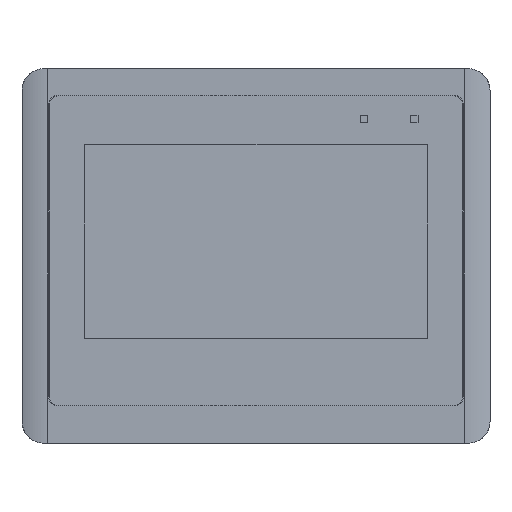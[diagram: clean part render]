
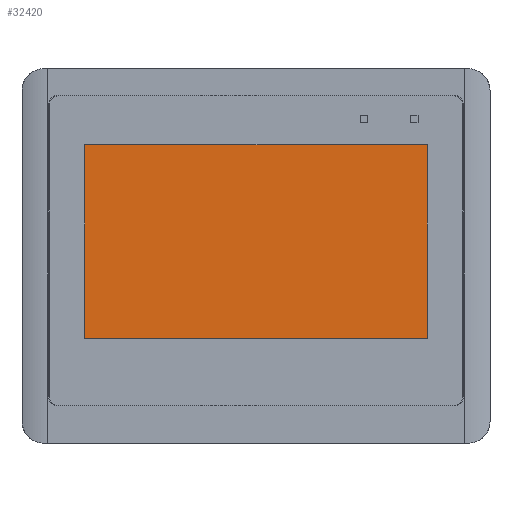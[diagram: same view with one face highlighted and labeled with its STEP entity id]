
A CAD part, top view. The second image highlights one B-rep face of the part: STEP entity #32420.
In plain terms, the highlighted planar face has unit normal (0, 0, 1).
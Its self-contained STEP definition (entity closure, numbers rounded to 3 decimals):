
#31876=DIRECTION('',(-1.,0.,0.));
#31877=VECTOR('',#31876,95.04);
#31878=CARTESIAN_POINT('',(47.52,-26.93,4.18));
#31879=LINE('',#31878,#31877);
#31880=DIRECTION('',(0.,1.,0.));
#31881=VECTOR('',#31880,53.86);
#31882=CARTESIAN_POINT('',(-47.52,-26.93,4.18));
#31883=LINE('',#31882,#31881);
#31884=DIRECTION('',(1.,0.,0.));
#31885=VECTOR('',#31884,95.04);
#31886=CARTESIAN_POINT('',(-47.52,26.93,4.18));
#31887=LINE('',#31886,#31885);
#31888=DIRECTION('',(0.,-1.,0.));
#31889=VECTOR('',#31888,53.86);
#31890=CARTESIAN_POINT('',(47.52,26.93,4.18));
#31891=LINE('',#31890,#31889);
#32044=CARTESIAN_POINT('',(-47.52,-26.93,4.18));
#32045=VERTEX_POINT('',#32044);
#32046=CARTESIAN_POINT('',(47.52,-26.93,4.18));
#32047=VERTEX_POINT('',#32046);
#32048=CARTESIAN_POINT('',(-47.52,26.93,4.18));
#32049=VERTEX_POINT('',#32048);
#32050=CARTESIAN_POINT('',(47.52,26.93,4.18));
#32051=VERTEX_POINT('',#32050);
#32409=CARTESIAN_POINT('',(0.,0.,4.18));
#32410=DIRECTION('',(0.,0.,1.));
#32411=DIRECTION('',(1.,0.,0.));
#32412=AXIS2_PLACEMENT_3D('',#32409,#32410,#32411);
#32413=PLANE('',#32412);
#32414=ORIENTED_EDGE('',*,*,#32333,.T.);
#32415=ORIENTED_EDGE('',*,*,#32355,.T.);
#32416=ORIENTED_EDGE('',*,*,#32376,.T.);
#32417=ORIENTED_EDGE('',*,*,#32396,.T.);
#32418=EDGE_LOOP('',(#32414,#32415,#32416,#32417));
#32419=FACE_OUTER_BOUND('',#32418,.F.);
#32333=EDGE_CURVE('',#32047,#32045,#31879,.T.);
#32355=EDGE_CURVE('',#32045,#32049,#31883,.T.);
#32376=EDGE_CURVE('',#32049,#32051,#31887,.T.);
#32396=EDGE_CURVE('',#32051,#32047,#31891,.T.);
#32420=ADVANCED_FACE('',(#32419),#32413,.T.);
